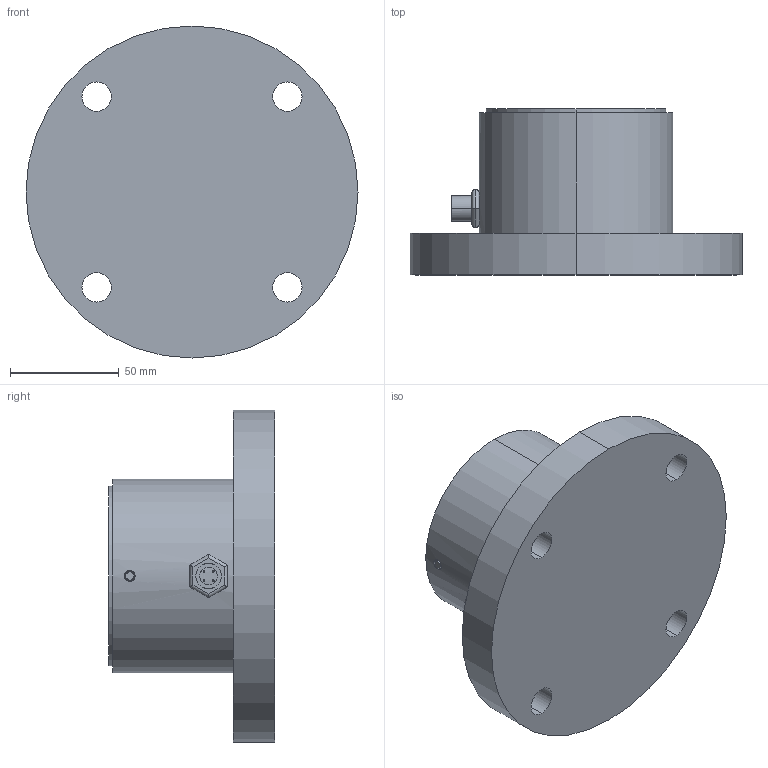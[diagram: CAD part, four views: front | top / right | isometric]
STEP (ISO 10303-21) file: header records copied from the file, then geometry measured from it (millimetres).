
FILE_DESCRIPTION (( 'STEP AP214' ), '1' );
FILE_NAME ('FINAL ASBY SS1822-200TON.STEP', '2024-08-12T15:00:26', ( '' ), ( '' ), 'SwSTEP 2.0', 'SolidWorks 2008', '' );
FILE_SCHEMA (( 'AUTOMOTIVE_DESIGN' ));
Length unit declared in the file: inch
Products named in the file (1): FINAL ASBY SS1822-200TON
Bounding box: 152.4 x 76.2 x 152.4 mm (x, y, z)
Volume: 687267.7 mm3; surface area: 67748.7 mm2
Topology: 3 solids, 3 shells, 111 faces, 260 edges, 160 vertices
Faces by surface type: cylinder 67, plane 30, cone 8, sphere 4, bspline 2
Entity records: 3398 total; most frequent: CARTESIAN_POINT 915, DIRECTION 518, ORIENTED_EDGE 472, EDGE_CURVE 236, AXIS2_PLACEMENT_3D 204, VERTEX_POINT 152, EDGE_LOOP 142, ADVANCED_FACE 111
